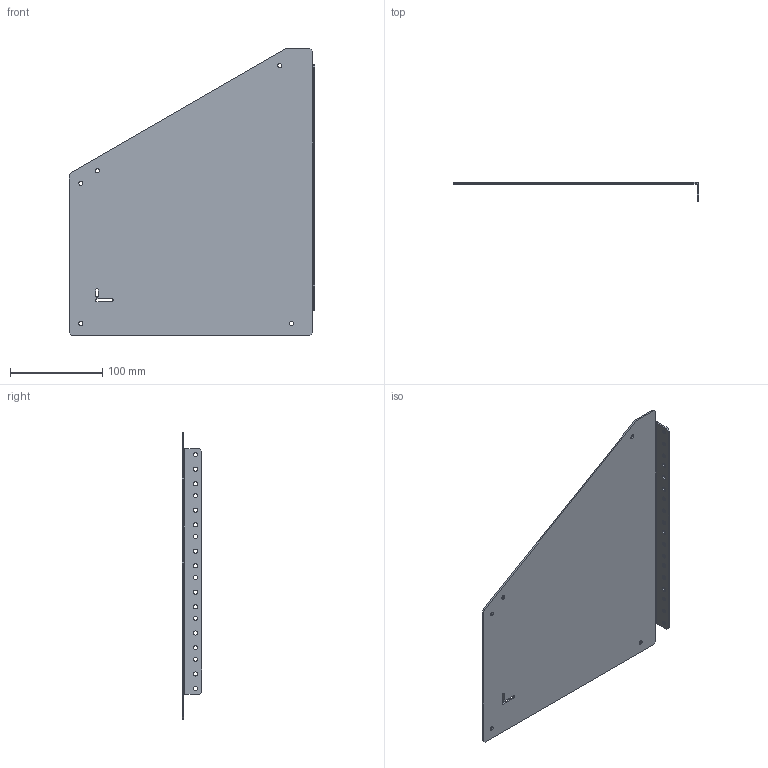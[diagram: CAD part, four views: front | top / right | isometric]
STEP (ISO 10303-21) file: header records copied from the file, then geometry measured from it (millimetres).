
FILE_DESCRIPTION(/* description */ ('Unknown'),/* implementation_level */ '2;1');
FILE_NAME(/* name */ 'HLP6UFR',/* time_stamp */ '2021-10-28T11:31:02-04:00',/* author */ ('Unknown'),/* organization */ ('Unknown'),/* preprocessor_version */ 'ST-DEVELOPER v16.7',/* originating_system */ 'Solid Edge',/* authorisation */ 'Unknown');
FILE_SCHEMA (('AUTOMOTIVE_DESIGN {1 0 10303 214 3 1 1}'));
Length unit declared in the file: millimetre
Products named in the file (1): COM57381-6L
Bounding box: 266.7 x 21.13 x 311.15 mm (x, y, z)
Volume: 130567.3 mm3; surface area: 145486.8 mm2
Topology: 1 solids, 1 shells, 52 faces, 164 edges, 114 vertices
Faces by surface type: cylinder 29, plane 23
Full cylindrical faces by diameter (mm): 4.496 x23
Entity records: 1702 total; most frequent: DIRECTION 287, CARTESIAN_POINT 272, ORIENTED_EDGE 246, EDGE_LOOP 125, FACE_BOUND 125, EDGE_CURVE 123, AXIS2_PLACEMENT_3D 111, VERTEX_POINT 96
